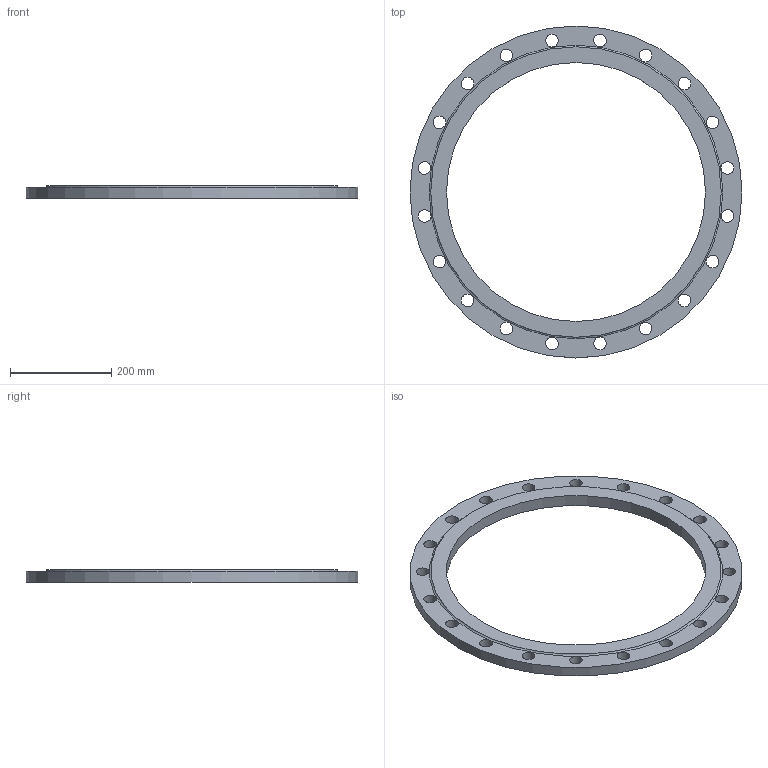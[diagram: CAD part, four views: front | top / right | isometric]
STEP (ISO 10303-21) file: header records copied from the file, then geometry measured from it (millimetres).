
FILE_DESCRIPTION(/* description */ (''),/* implementation_level */ '2;1');
FILE_NAME(/* name */ 'C:\Users\D\Documents\Inventor\HP\JIS\フランジ\JIS 5k sop rf\jis5k-sop-rf-500.stp',/* time_stamp */ '2024-09-12T17:02:36+09:00',/* author */ ('D'),/* organization */ (''),/* preprocessor_version */ 'ST-DEVELOPER v18',/* originating_system */ 'Autodesk Inventor 2020',/* authorisation */ '');
FILE_SCHEMA (('AUTOMOTIVE_DESIGN { 1 0 10303 214 3 1 1 }'));
Length unit declared in the file: millimetre
Products named in the file (1): jis5k-sop-rf-10
Bounding box: 655 x 655 x 24 mm (x, y, z)
Volume: 2724974.4 mm3; surface area: 361922.4 mm2
Topology: 1 solids, 1 shells, 26 faces, 74 edges, 51 vertices
Faces by surface type: cylinder 22, plane 3, torus 1
Full cylindrical faces by diameter (mm): 25 x20, 511 x1, 655 x1
Entity records: 1015 total; most frequent: DIRECTION 180, CARTESIAN_POINT 152, ORIENTED_EDGE 148, AXIS2_PLACEMENT_3D 79, EDGE_CURVE 74, EDGE_LOOP 69, CIRCLE 52, VERTEX_POINT 51
